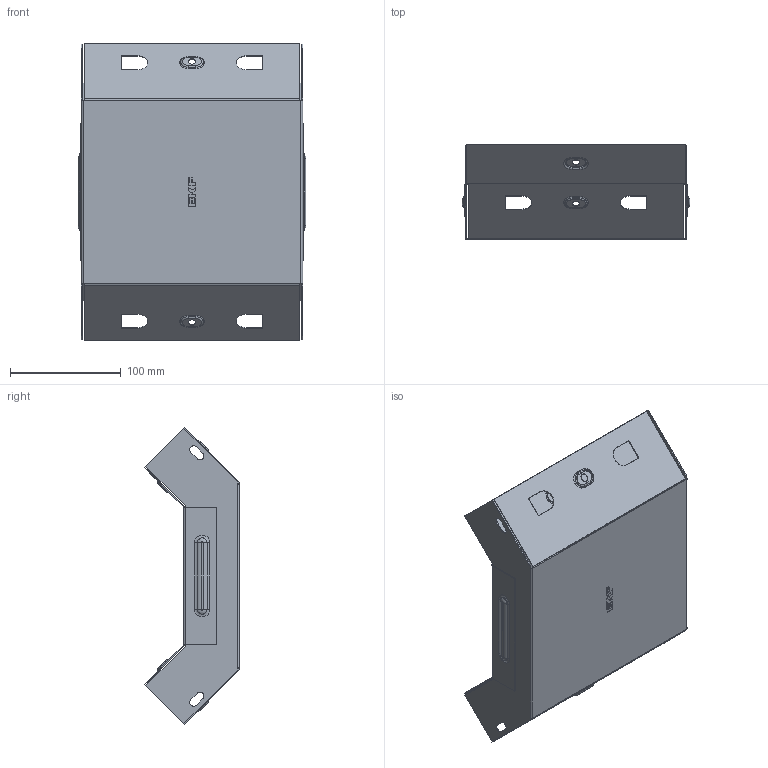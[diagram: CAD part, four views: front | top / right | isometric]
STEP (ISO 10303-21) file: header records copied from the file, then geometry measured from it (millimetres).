
FILE_DESCRIPTION (( 'STEP AP214' ), '1' );
FILE_NAME ('vi9050200_捘.STEP', '2019-06-10T09:12:13', ( '砐錪賧瘔蠈錪 Windows' ), ( '' ), 'SwSTEP 2.0', 'SolidWorks 2018', '' );
FILE_SCHEMA (( 'AUTOMOTIVE_DESIGN' ));
Length unit declared in the file: millimetre
Products named in the file (1): vi9050200_捘
Bounding box: 205.6 x 86.16 x 267.58 mm (x, y, z)
Volume: 109726.6 mm3; surface area: 276819.1 mm2
Topology: 2 solids, 2 shells, 432 faces, 1104 edges, 704 vertices
Faces by surface type: plane 234, cylinder 116, torus 64, bspline 18
Entity records: 13972 total; most frequent: CARTESIAN_POINT 3260, DIRECTION 2226, ORIENTED_EDGE 2208, EDGE_CURVE 1104, AXIS2_PLACEMENT_3D 743, VECTOR 740, LINE 740, VERTEX_POINT 704
